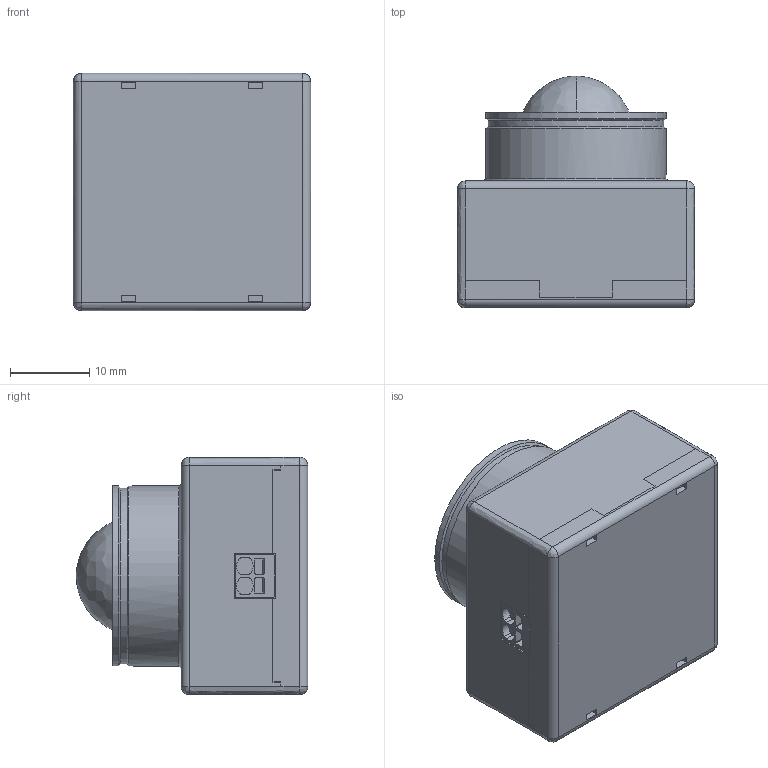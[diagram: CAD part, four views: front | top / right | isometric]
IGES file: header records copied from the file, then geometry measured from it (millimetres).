
Global section: file name: 15014363_00; native system: Autodesk Inventor 2017; preprocessor: unknown; author: muell; date: 20210227.124837; units: millimetre
Bounding box: 30 x 29.28 x 30 mm (x, y, z)
Volume: 18819 mm3; surface area: 5690.2 mm2
Topology: 1 solids, 27 shells, 326 faces, 736 edges, 478 vertices
Faces by surface type: bspline 326
